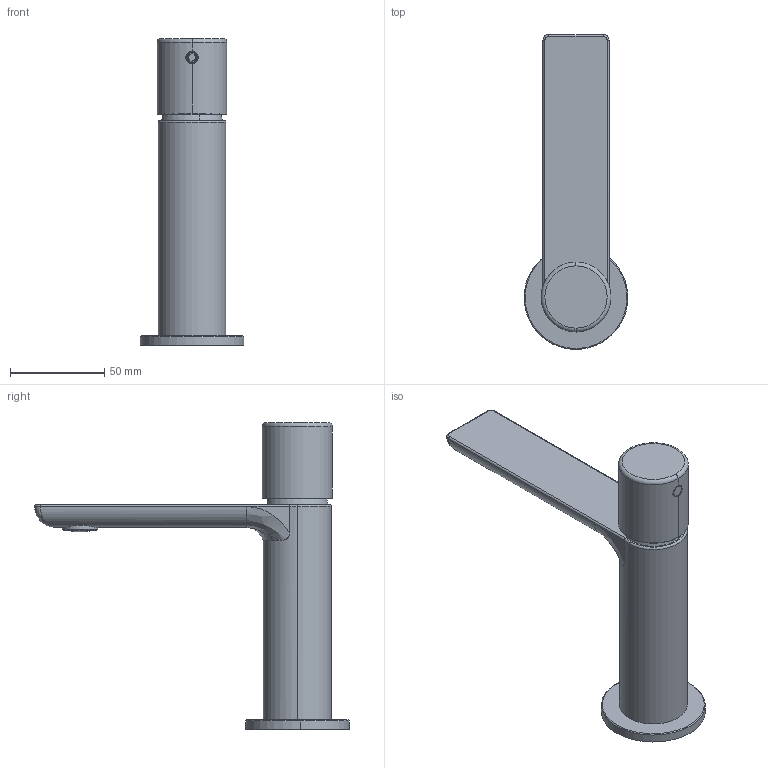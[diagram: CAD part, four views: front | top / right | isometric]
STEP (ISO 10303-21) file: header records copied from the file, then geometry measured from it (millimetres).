
FILE_DESCRIPTION (( 'STEP AP203' ), '1' );
FILE_NAME ('ZOE1D.STEP', '2024-09-11T08:17:24', ( '' ), ( '' ), 'SwSTEP 2.0', 'SolidWorks 2023', '' );
FILE_SCHEMA (( 'CONFIG_CONTROL_DESIGN' ));
Length unit declared in the file: millimetre
Products named in the file (12): ZOE1D; CORPO ZANE''; C13.00.0013; AS1035_00; C24.2594.00.0; C10.00.0030; C47.00.0023.01; C11.14.0009; BASETTA JAGO''; CAPPUCCIO JAGO; C24.2581.00.0; GHIERA JAGO
Assembly tree (11 placements, depth 3):
  ZOE1D
    CORPO ZANE''
    C10.00.0030
    CAPPUCCIO JAGO
    GHIERA JAGO
    AS1035_00
      C24.2581.00.0
      C24.2594.00.0
      C11.14.0009
    C47.00.0023.01
    BASETTA JAGO''
    C13.00.0013
Bounding box: 54.89 x 166.44 x 162.5 mm (x, y, z)
Volume: 153514.7 mm3; surface area: 65075.3 mm2
Topology: 10 solids, 12 shells, 327 faces, 747 edges, 468 vertices
Faces by surface type: cylinder 132, plane 124, cone 37, torus 18, bspline 16
Entity records: 11719 total; most frequent: CARTESIAN_POINT 2947, DIRECTION 1681, ORIENTED_EDGE 1478, EDGE_CURVE 741, AXIS2_PLACEMENT_3D 677, VERTEX_POINT 468, EDGE_LOOP 377, CIRCLE 350
